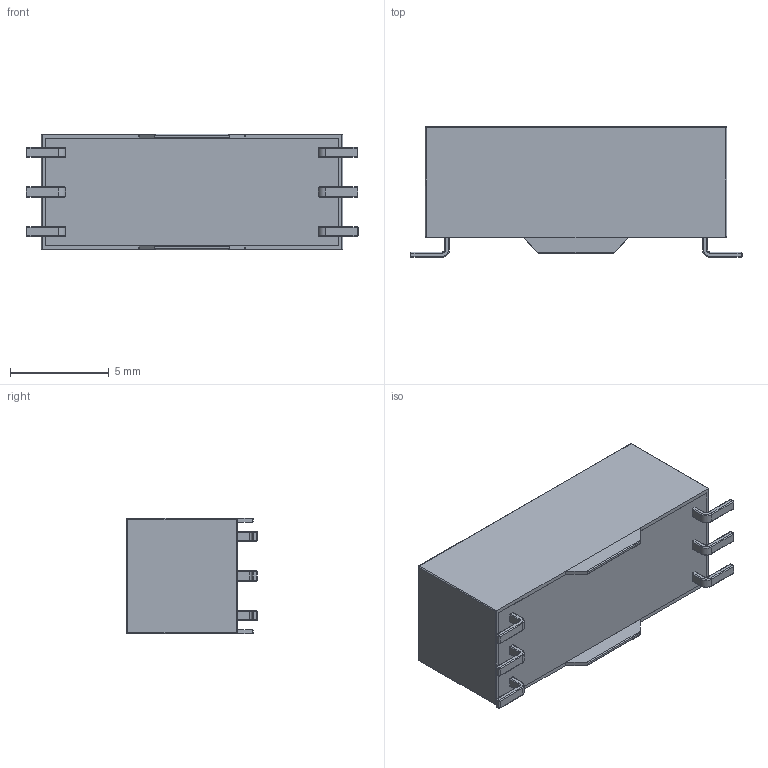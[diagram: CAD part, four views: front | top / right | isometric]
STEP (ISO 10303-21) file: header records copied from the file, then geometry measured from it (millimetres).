
FILE_DESCRIPTION (( 'STEP AP203' ), '1' );
FILE_NAME ('200-2-A.STEP', '2010-06-29T12:23:53', ( ' ' ), ( '' ), 'SwSTEP 2.0', 'SolidWorks 2009', '' );
FILE_SCHEMA (( 'CONFIG_CONTROL_DESIGN' ));
Length unit declared in the file: inch
Products named in the file (4): 200-2-A shell; 200-2-A internal; 200-2-A; 200 series pin
Assembly tree (8 placements, depth 2):
  200-2-A
    200 series pin  x6
    200-2-A internal
    200-2-A shell
Bounding box: 16.8 x 6.6 x 5.85 mm (x, y, z)
Volume: 502.9 mm3; surface area: 1052.3 mm2
Topology: 8 solids, 8 shells, 499 faces, 1216 edges, 744 vertices
Faces by surface type: plane 256, cylinder 132, bspline 59, sphere 28, torus 24
Entity records: 14382 total; most frequent: CARTESIAN_POINT 6206, ORIENTED_EDGE 1676, DIRECTION 1356, EDGE_CURVE 838, VECTOR 616, LINE 616, VERTEX_POINT 544, AXIS2_PLACEMENT_3D 370
